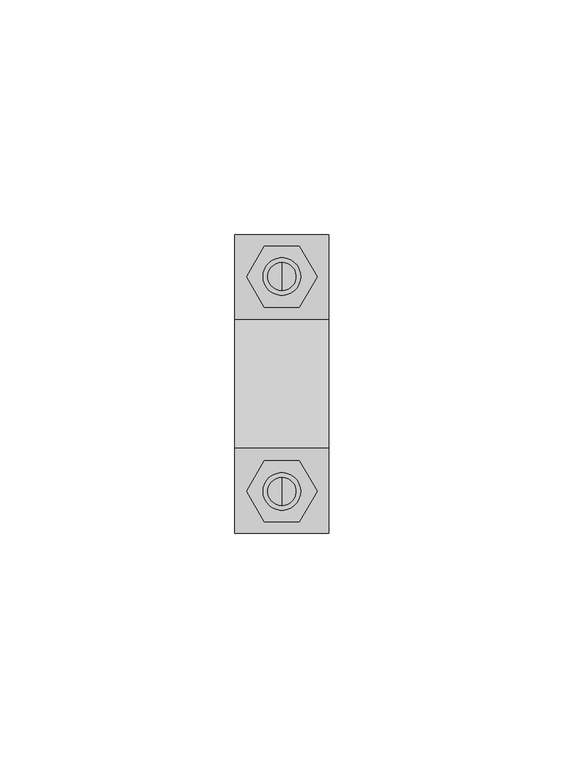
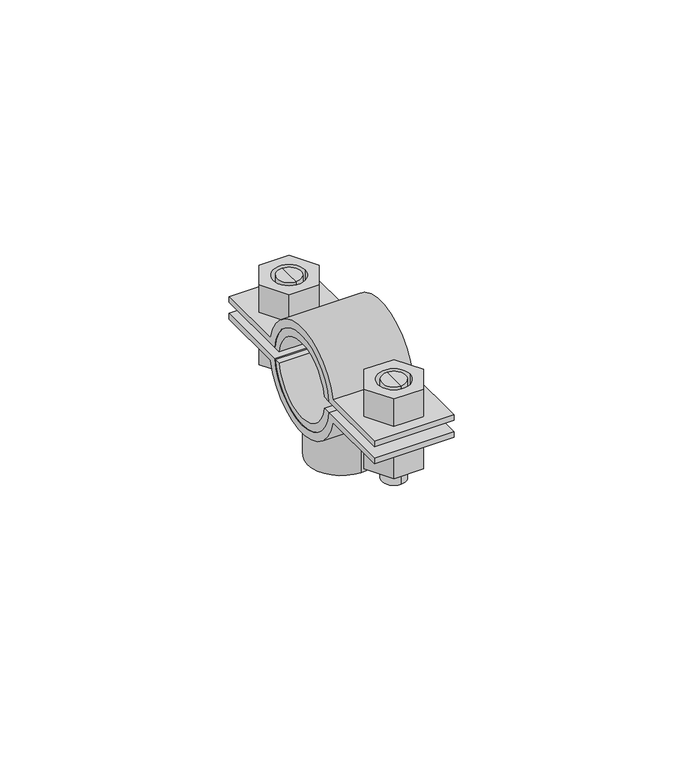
"""IFC4 building model written with IfcOpenShell, lengths in millimetres: valve geometry, Superfix DG2 Clamp Extra + : Superfix DG2 Clamp Extra +."""

from ifc_helpers import new_model, si_unit, point, frame, frame_2d, origin, origin_2d, place, context, project, spatial, polyline, circle_curve, trimmed, segment, composite_curve, outline, extrude, source, transform, mapped, element, save
from ifc_brep_helpers import plane_surface, cylinder_surface, advanced_brep


def valve_fd664f3f(model_context):
    return source(origin(), model_context, "Body", "SolidModel", [
        advanced_brep(
        [(0.0, 25.875, 334.4), (0.0, 19.875, 334.4), (0.0, 19.875, 348.5), (0.0, 25.875, 348.5), (0.0, 22.875, 334.4)],
        [
            (0, 1, circle_curve(frame((0.0, 22.875, 334.4), z_axis=(0.0, 0.0, 1.0), x_axis=(0.0, 1.0, 0.0)), 3.0)),
            (1, 2),
            (2, 3, circle_curve(frame((0.0, 22.875, 348.5), z_axis=(0.0, 0.0, -1.0), x_axis=(0.0, 1.0, 0.0)), 3.0)),
            (3, 0),
            (1, 0, circle_curve(frame((0.0, 22.875, 334.4), z_axis=(0.0, 0.0, 1.0), x_axis=(0.0, 1.0, 0.0)), 3.0)),
            (3, 2, circle_curve(frame((0.0, 22.875, 348.5), z_axis=(0.0, 0.0, -1.0), x_axis=(0.0, 1.0, 0.0)), 3.0)),
            (0, 4),
            (4, 1),
        ],
        [
            cylinder_surface(frame((0.0, 22.875, 348.2806094), z_axis=(0.0, 0.0, 1.0), x_axis=(0.0, 1.0, 0.0)), 3.0),
            plane_surface(frame((0.0, 22.875, 334.4), z_axis=(0.0, 0.0, -1.0), x_axis=(0.0, 1.0, 0.0))),
            plane_surface(frame((13.75, -31.75, 348.5), z_axis=(0.0, 0.0, 1.0), x_axis=(-1.0, 0.0, 0.0))),
        ],
        [
            (0, [[1, 2, 3, 4]]),
            (0, [[5, -4, 6, -2]]),
            (1, [[-1, 7, 8]]),
            (1, [[-5, -8, -7]]),
            (2, [[-3, -6]]),
        ],
    ),
        advanced_brep(
        [(0.0, 19.875, 360.6), (0.0, 25.875, 360.6), (0.0, 25.875, 351.5), (0.0, 19.875, 351.5), (0.0, 22.875, 360.6)],
        [
            (0, 1, circle_curve(frame((0.0, 22.875, 360.6), z_axis=(0.0, 0.0, -1.0), x_axis=(0.0, 1.0, 0.0)), 3.0)),
            (1, 2),
            (2, 3, circle_curve(frame((0.0, 22.875, 351.5), z_axis=(0.0, 0.0, 1.0), x_axis=(0.0, 1.0, 0.0)), 3.0)),
            (3, 0),
            (1, 0, circle_curve(frame((0.0, 22.875, 360.6), z_axis=(0.0, 0.0, -1.0), x_axis=(0.0, 1.0, 0.0)), 3.0)),
            (3, 2, circle_curve(frame((0.0, 22.875, 351.5), z_axis=(0.0, 0.0, 1.0), x_axis=(0.0, 1.0, 0.0)), 3.0)),
            (0, 4),
            (4, 1),
        ],
        [
            cylinder_surface(frame((0.0, 22.875, 348.2806094), z_axis=(0.0, 0.0, 1.0), x_axis=(0.0, 1.0, 0.0)), 3.0),
            plane_surface(frame((0.0, 22.875, 360.6), z_axis=(0.0, 0.0, 1.0), x_axis=(0.0, 1.0, 0.0))),
            plane_surface(frame((13.75, 31.75, 351.5), z_axis=(0.0, 0.0, -1.0), x_axis=(-1.0, 0.0, 0.0))),
        ],
        [
            (0, [[1, 2, 3, 4]]),
            (0, [[5, -4, 6, -2]]),
            (1, [[-1, 7, 8]]),
            (1, [[-5, -8, -7]]),
            (2, [[-3, -6]]),
        ],
    ),
        advanced_brep(
        [(0.0, -25.875, 360.6), (0.0, -19.875, 360.6), (0.0, -19.875, 351.5), (0.0, -25.875, 351.5), (0.0, -22.875, 360.6)],
        [
            (0, 1, circle_curve(frame((0.0, -22.875, 360.6), z_axis=(0.0, 0.0, -1.0), x_axis=(0.0, -1.0, 0.0)), 3.0)),
            (1, 2),
            (2, 3, circle_curve(frame((0.0, -22.875, 351.5), z_axis=(0.0, 0.0, 1.0), x_axis=(0.0, -1.0, 0.0)), 3.0)),
            (3, 0),
            (1, 0, circle_curve(frame((0.0, -22.875, 360.6), z_axis=(0.0, 0.0, -1.0), x_axis=(0.0, -1.0, 0.0)), 3.0)),
            (3, 2, circle_curve(frame((0.0, -22.875, 351.5), z_axis=(0.0, 0.0, 1.0), x_axis=(0.0, -1.0, 0.0)), 3.0)),
            (0, 4),
            (4, 1),
        ],
        [
            cylinder_surface(frame((0.0, -22.875, 348.2806094), z_axis=(0.0, 0.0, -1.0), x_axis=(0.0, -1.0, 0.0)), 3.0),
            plane_surface(frame((0.0, -22.875, 360.6), z_axis=(0.0, 0.0, 1.0), x_axis=(0.0, -1.0, 0.0))),
            plane_surface(frame((13.75, 31.75, 351.5), z_axis=(0.0, 0.0, -1.0), x_axis=(-1.0, 0.0, 0.0))),
        ],
        [
            (0, [[1, 2, 3, 4]]),
            (0, [[5, -4, 6, -2]]),
            (1, [[-1, 7, 8]]),
            (1, [[-5, -8, -7]]),
            (2, [[-3, -6]]),
        ],
    ),
        advanced_brep(
        [(0.0, -19.875, 334.4), (0.0, -25.875, 334.4), (0.0, -25.875, 348.5), (0.0, -19.875, 348.5), (0.0, -22.875, 334.4)],
        [
            (0, 1, circle_curve(frame((0.0, -22.875, 334.4), z_axis=(0.0, 0.0, 1.0), x_axis=(0.0, -1.0, 0.0)), 3.0)),
            (1, 2),
            (2, 3, circle_curve(frame((0.0, -22.875, 348.5), z_axis=(0.0, 0.0, -1.0), x_axis=(0.0, -1.0, 0.0)), 3.0)),
            (3, 0),
            (1, 0, circle_curve(frame((0.0, -22.875, 334.4), z_axis=(0.0, 0.0, 1.0), x_axis=(0.0, -1.0, 0.0)), 3.0)),
            (3, 2, circle_curve(frame((0.0, -22.875, 348.5), z_axis=(0.0, 0.0, -1.0), x_axis=(0.0, -1.0, 0.0)), 3.0)),
            (0, 4),
            (4, 1),
        ],
        [
            cylinder_surface(frame((0.0, -22.875, 348.2806094), z_axis=(0.0, 0.0, -1.0), x_axis=(0.0, -1.0, 0.0)), 3.0),
            plane_surface(frame((0.0, -22.875, 334.4), z_axis=(0.0, 0.0, -1.0), x_axis=(0.0, -1.0, 0.0))),
            plane_surface(frame((13.75, -31.75, 348.5), z_axis=(0.0, 0.0, 1.0), x_axis=(-1.0, 0.0, 0.0))),
        ],
        [
            (0, [[1, 2, 3, 4]]),
            (0, [[5, -4, 6, -2]]),
            (1, [[-1, 7, 8]]),
            (1, [[-5, -8, -7]]),
            (2, [[-3, -6]]),
        ],
    ),
        extrude(outline(composite_curve([segment(trimmed(circle_curve(frame_2d((0.0, 350.0)), 12.0), [point((-11.9058809, 348.5))], [point((11.9058809, 348.5))], True, "CARTESIAN"), True, "CONTINUOUS"), segment(polyline([(11.9058809, 348.5), (31.75, 348.5), (31.75, 347.0), (13.6747943, 347.0)]), True, "CONTINUOUS"), segment(trimmed(circle_curve(frame_2d((0.0, 350.0)), 14.0), [point((13.6747943, 347.0))], [point((-13.6747943, 347.0))], False, "CARTESIAN"), True, "CONTINUOUS"), segment(polyline([(-13.6747943, 347.0), (-31.75, 347.0), (-31.75, 348.5), (-11.9058809, 348.5)]), True, "CONTINUOUS")], self_intersect=False)), frame((-10.0, 0.0, 0.0), z_axis=(1.0, 0.0, 0.0), x_axis=(0.0, 1.0, 0.0)), (0.0, 0.0, 1.0), 20.0),
        extrude(outline(composite_curve([segment(trimmed(circle_curve(frame_2d((0.0, 350.0)), 12.0), [point((11.9058809, 351.5))], [point((-11.9058809, 351.5))], True, "CARTESIAN"), True, "CONTINUOUS"), segment(polyline([(-11.9058809, 351.5), (-31.75, 351.5), (-31.75, 353.0), (-13.6747943, 353.0)]), True, "CONTINUOUS"), segment(trimmed(circle_curve(frame_2d((0.0, 350.0)), 14.0), [point((-13.6747943, 353.0))], [point((13.6747943, 353.0))], False, "CARTESIAN"), True, "CONTINUOUS"), segment(polyline([(13.6747943, 353.0), (31.75, 353.0), (31.75, 351.5), (11.9058809, 351.5)]), True, "CONTINUOUS")], self_intersect=False)), frame((-10.0, 0.0, 0.0), z_axis=(1.0, 0.0, 0.0), x_axis=(0.0, 1.0, 0.0)), (0.0, 0.0, 1.0), 20.0),
        extrude(outline(polyline([(7.5055535, -22.875), (3.7527767, -29.375), (-3.7527767, -29.375), (-7.5055535, -22.875), (-3.7527767, -16.375), (3.7527767, -16.375), (7.5055535, -22.875)]), holes=[composite_curve([segment(trimmed(circle_curve(frame_2d((0.0, -22.875)), 4.0), [point((4.0, -22.875))], [point((-4.0, -22.875))], True, "CARTESIAN"), True, "CONTINUOUS"), segment(trimmed(circle_curve(frame_2d((0.0, -22.875)), 4.0), [point((-4.0, -22.875))], [point((4.0, -22.875))], True, "CARTESIAN"), True, "CONTINUOUS")], self_intersect=False)]), frame((0.0, 0.0, 353.0), z_axis=(0.0, 0.0, 1.0), x_axis=(1.0, 0.0, 0.0)), (0.0, 0.0, 1.0), 7.6),
        extrude(outline(polyline([(7.5055535, 22.875), (3.7527767, 16.375), (-3.7527767, 16.375), (-7.5055535, 22.875), (-3.7527767, 29.375), (3.7527767, 29.375), (7.5055535, 22.875)]), holes=[composite_curve([segment(trimmed(circle_curve(frame_2d((0.0, 22.875)), 4.0), [point((4.0, 22.875))], [point((-4.0, 22.875))], True, "CARTESIAN"), True, "CONTINUOUS"), segment(trimmed(circle_curve(frame_2d((0.0, 22.875)), 4.0), [point((-4.0, 22.875))], [point((4.0, 22.875))], True, "CARTESIAN"), True, "CONTINUOUS")], self_intersect=False)]), frame((0.0, 0.0, 353.0), z_axis=(0.0, 0.0, 1.0), x_axis=(1.0, 0.0, 0.0)), (0.0, 0.0, 1.0), 7.6),
        extrude(outline(polyline([(7.5055535, -22.875), (3.7527767, -29.375), (-3.7527767, -29.375), (-7.5055535, -22.875), (-3.7527767, -16.375), (3.7527767, -16.375), (7.5055535, -22.875)]), holes=[composite_curve([segment(trimmed(circle_curve(frame_2d((0.0, -22.875)), 4.0), [point((4.0, -22.875))], [point((-4.0, -22.875))], True, "CARTESIAN"), True, "CONTINUOUS"), segment(trimmed(circle_curve(frame_2d((0.0, -22.875)), 4.0), [point((-4.0, -22.875))], [point((4.0, -22.875))], True, "CARTESIAN"), True, "CONTINUOUS")], self_intersect=False)]), frame((0.0, 0.0, 339.4), z_axis=(0.0, 0.0, 1.0), x_axis=(1.0, 0.0, 0.0)), (0.0, 0.0, 1.0), 7.6),
        extrude(outline(polyline([(7.5055535, 22.875), (3.7527767, 16.375), (-3.7527767, 16.375), (-7.5055535, 22.875), (-3.7527767, 29.375), (3.7527767, 29.375), (7.5055535, 22.875)]), holes=[composite_curve([segment(trimmed(circle_curve(frame_2d((0.0, 22.875)), 4.0), [point((4.0, 22.875))], [point((-4.0, 22.875))], True, "CARTESIAN"), True, "CONTINUOUS"), segment(trimmed(circle_curve(frame_2d((0.0, 22.875)), 4.0), [point((-4.0, 22.875))], [point((4.0, 22.875))], True, "CARTESIAN"), True, "CONTINUOUS")], self_intersect=False)]), frame((0.0, 0.0, 339.4), z_axis=(0.0, 0.0, 1.0), x_axis=(1.0, 0.0, 0.0)), (0.0, 0.0, 1.0), 7.6),
        extrude(outline(composite_curve([segment(trimmed(circle_curve(origin_2d(), 8.5), [point((0.0, 8.5))], [point((0.0, -8.5))], False, "CARTESIAN"), True, "CONTINUOUS"), segment(trimmed(circle_curve(origin_2d(), 8.5), [point((0.0, -8.5))], [point((0.0, 8.5))], False, "CARTESIAN"), True, "CONTINUOUS")], self_intersect=False), holes=[composite_curve([segment(trimmed(circle_curve(origin_2d(), 5.0), [point((0.0, 5.0))], [point((0.0, -5.0))], True, "CARTESIAN"), True, "CONTINUOUS"), segment(trimmed(circle_curve(origin_2d(), 5.0), [point((0.0, -5.0))], [point((0.0, 5.0))], True, "CARTESIAN"), True, "CONTINUOUS")], self_intersect=False)]), frame((0.0, 0.0, 327.0), z_axis=(0.0, 0.0, 1.0), x_axis=(1.0, 0.0, 0.0)), (0.0, 0.0, 1.0), 11.5),
        extrude(outline(composite_curve([segment(trimmed(circle_curve(frame_2d((0.0, 350.0)), 10.0), [point((9.88686, 351.5))], [point((-9.88686, 351.5))], True, "CARTESIAN"), True, "CONTINUOUS"), segment(polyline([(-9.88686, 351.5), (-11.9058809, 351.5)]), True, "CONTINUOUS"), segment(trimmed(circle_curve(frame_2d((0.0, 350.0)), 12.0), [point((-11.9058809, 351.5))], [point((11.9058809, 351.5))], False, "CARTESIAN"), True, "CONTINUOUS"), segment(polyline([(11.9058809, 351.5), (9.88686, 351.5)]), True, "CONTINUOUS")], self_intersect=False)), frame((-10.0, 0.0, 0.0), z_axis=(1.0, 0.0, 0.0), x_axis=(0.0, 1.0, 0.0)), (0.0, 0.0, 1.0), 20.0),
        extrude(outline(composite_curve([segment(polyline([(9.88686, 348.5), (11.9058809, 348.5)]), True, "CONTINUOUS"), segment(trimmed(circle_curve(frame_2d((0.0, 350.0)), 12.0), [point((11.9058809, 348.5))], [point((-11.9058809, 348.5))], False, "CARTESIAN"), True, "CONTINUOUS"), segment(polyline([(-11.9058809, 348.5), (-9.88686, 348.5)]), True, "CONTINUOUS"), segment(trimmed(circle_curve(frame_2d((0.0, 350.0)), 10.0), [point((-9.88686, 348.5))], [point((9.88686, 348.5))], True, "CARTESIAN"), True, "CONTINUOUS")], self_intersect=False)), frame((-10.0, 0.0, 0.0), z_axis=(1.0, 0.0, 0.0), x_axis=(0.0, 1.0, 0.0)), (0.0, 0.0, 1.0), 20.0),
    ])


if __name__ == "__main__":
    model = new_model("IFC4")
    model_context = context("Model", 3, world=origin())
    ifc_project = project(units=[si_unit("LENGTHUNIT", "METRE", prefix="MILLI")], contexts=[model_context])
    site = spatial("IfcSite", under=ifc_project)
    building = spatial("IfcBuilding", under=site)
    placement = place(None, origin())
    valve_shape = valve_fd664f3f(model_context)
    element("IfcValve", 1, ObjectType="Superfix DG2 Clamp Extra + : Superfix DG2 Clamp Extra +", at=placement, inside=building, context=model_context, shape_type="MappedRepresentation", body=[
        mapped(valve_shape, transform((0.0, 0.0, 0.0), x_axis=(1.0, 0.0, 0.0), y_axis=(0.0, 1.0, 0.0), z_axis=(0.0, 0.0, 1.0))),
    ])
    save(model, "model.ifc")
